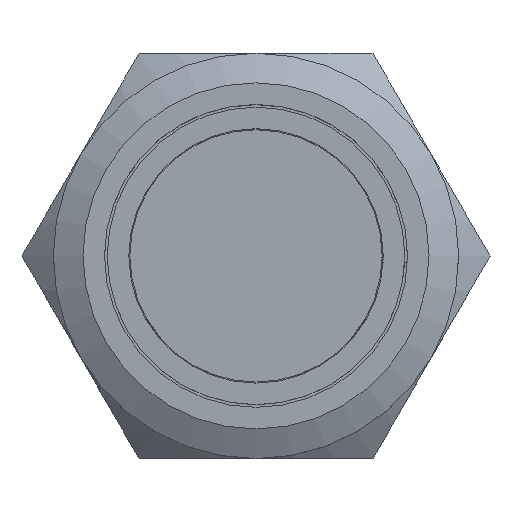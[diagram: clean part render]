
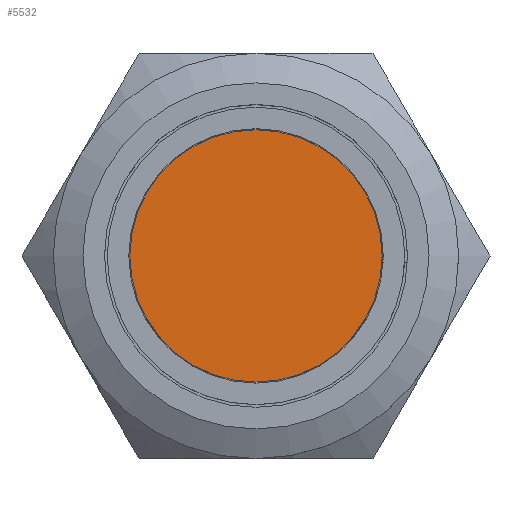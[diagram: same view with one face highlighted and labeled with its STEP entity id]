
A CAD part, top view. The second image highlights one B-rep face of the part: STEP entity #5532.
In plain terms, the highlighted planar face has unit normal (0, 0, 1).
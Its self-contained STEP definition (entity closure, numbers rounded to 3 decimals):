
#925=CIRCLE('',#22519,5.85);
#4880=PLANE('',#22530);
#5532=ADVANCED_FACE('',(#6527),#4880,.T.);
#6527=FACE_OUTER_BOUND('',#7420,.T.);
#7420=EDGE_LOOP('',(#12465));
#12465=ORIENTED_EDGE('',*,*,#19544,.T.);
#17743=VERTEX_POINT('',#29006);
#19544=EDGE_CURVE('',#17743,#17743,#925,.T.);
#22519=AXIS2_PLACEMENT_3D('',#29005,#24086,#24087);
#22530=AXIS2_PLACEMENT_3D('',#29036,#24115,#24116);
#24086=DIRECTION('',(0.,0.,1.));
#24087=DIRECTION('',(1.,0.,0.));
#24115=DIRECTION('',(0.,0.,1.));
#24116=DIRECTION('',(1.,0.,0.));
#29005=CARTESIAN_POINT('',(-27.901,18.658,-3.65));
#29006=CARTESIAN_POINT('',(-22.051,18.658,-3.65));
#29036=CARTESIAN_POINT('',(-27.901,18.658,-3.65));
